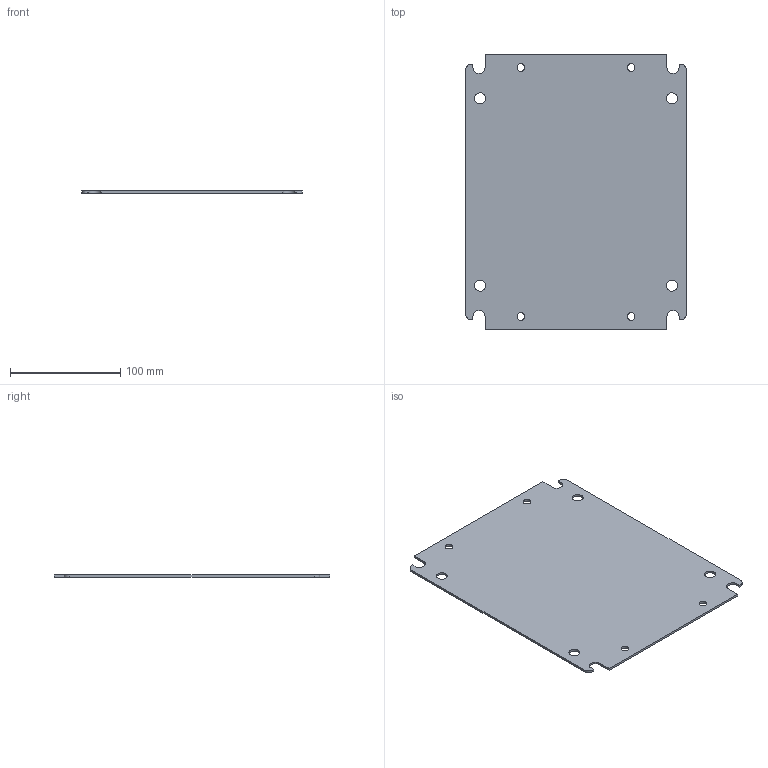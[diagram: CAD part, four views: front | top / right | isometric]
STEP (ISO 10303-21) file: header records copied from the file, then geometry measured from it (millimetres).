
FILE_DESCRIPTION (( 'STEP AP203' ), '1' );
FILE_NAME ('ECPA025030.STEP', '2020-04-09T07:59:52', ( '' ), ( '' ), 'SwSTEP 2.0', 'SolidWorks 2019', '' );
FILE_SCHEMA (( 'CONFIG_CONTROL_DESIGN' ));
Length unit declared in the file: millimetre
Products named in the file (1): ECPA025030
Bounding box: 200 x 250 x 2 mm (x, y, z)
Volume: 97116.8 mm3; surface area: 99425.1 mm2
Topology: 1 solids, 1 shells, 42 faces, 120 edges, 80 vertices
Faces by surface type: cylinder 24, plane 18
Entity records: 1501 total; most frequent: DIRECTION 254, CARTESIAN_POINT 243, ORIENTED_EDGE 240, EDGE_CURVE 120, AXIS2_PLACEMENT_3D 91, VERTEX_POINT 80, VECTOR 72, LINE 72
